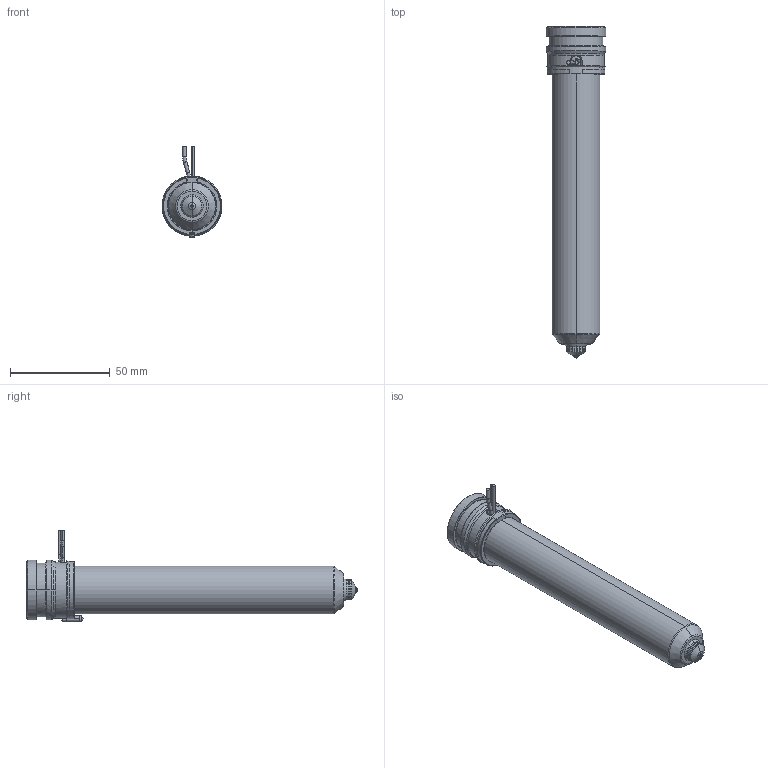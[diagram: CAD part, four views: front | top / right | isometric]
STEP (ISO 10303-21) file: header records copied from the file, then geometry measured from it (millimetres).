
FILE_DESCRIPTION((''),'2;1');
FILE_NAME('MPN-10-29-VSA10-146-A','2026-02-05T12:45:01',('UPTIO'),('Thermoplay S.p.A.'),'CREO PARAMETRIC BY PTC INC, 2023494','CREO PARAMETRIC BY PTC INC, 2023494','');
FILE_SCHEMA(('CONFIG_CONTROL_DESIGN','SHAPE_APPEARANCE_LAYERS_GROUPS'));
Length unit declared in the file: millimetre
Products named in the file (1): MPN-10-29-VSA10-146-A
Bounding box: 30 x 166 x 46 mm (x, y, z)
Volume: 51899.2 mm3; surface area: 52391.5 mm2
Topology: 2 solids, 3 shells, 556 faces, 1451 edges, 894 vertices
Faces by surface type: cylinder 184, plane 142, bspline 77, torus 70, cone 70, sphere 9, extrusion 4
Entity records: 30656 total; most frequent: CARTESIAN_POINT 14242, ORIENTED_EDGE 2890, DIRECTION 2691, EDGE_CURVE 1445, AXIS2_PLACEMENT_3D 1066, VERTEX_POINT 894, CIRCLE 590, EDGE_LOOP 585
